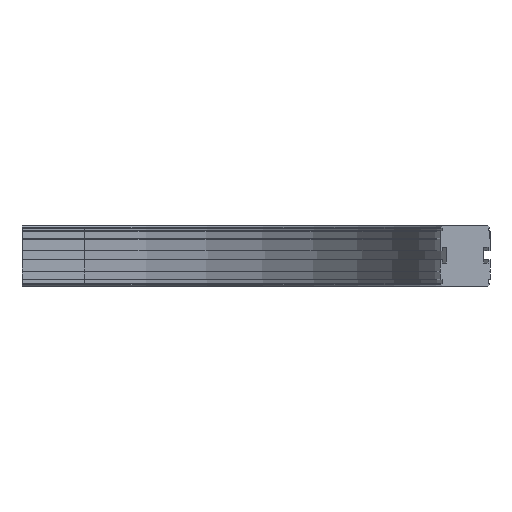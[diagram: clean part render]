
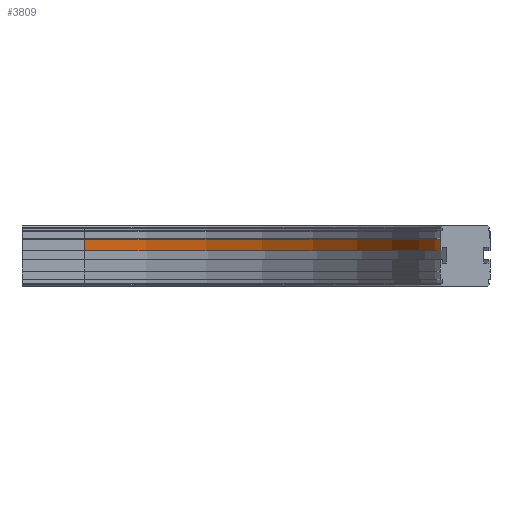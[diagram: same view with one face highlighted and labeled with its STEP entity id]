
A CAD part, front view. The second image highlights one B-rep face of the part: STEP entity #3809.
In plain terms, the highlighted cylindrical face has radius 457 mm (diameter 914 mm), a partial arc.
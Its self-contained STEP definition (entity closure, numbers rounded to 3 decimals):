
#2518=CARTESIAN_POINT('',(537.,-489.,-17.5));
#2519=VERTEX_POINT('',#2518);
#2526=CARTESIAN_POINT('',(537.,-489.,-32.5));
#2527=VERTEX_POINT('',#2526);
#2528=CARTESIAN_POINT('',(537.,-489.,-32.5));
#2529=DIRECTION('',(0.0,0.0,1.0));
#2530=VECTOR('',#2529,15.);
#2531=LINE('',#2528,#2530);
#2532=EDGE_CURVE('',#2527,#2519,#2531,.T.);
#3777=CARTESIAN_POINT('',(80.,-489.,-25.));
#3778=DIRECTION('',(0.0,0.0,-1.0));
#3779=DIRECTION('',(-1.0,0.0,0.0));
#3780=AXIS2_PLACEMENT_3D('',#3777,#3778,#3779);
#3781=CYLINDRICAL_SURFACE('',#3780,457.);
#3782=ORIENTED_EDGE('',*,*,#2532,.T.);
#3783=CARTESIAN_POINT('',(80.0,-32.0,-17.5));
#3784=VERTEX_POINT('',#3783);
#3785=CARTESIAN_POINT('',(80.,-489.,-17.5));
#3786=DIRECTION('',(0.0,0.0,-1.0));
#3787=DIRECTION('',(-1.0,0.0,0.0));
#3788=AXIS2_PLACEMENT_3D('',#3785,#3786,#3787);
#3789=CIRCLE('',#3788,457.);
#3790=EDGE_CURVE('',#3784,#2519,#3789,.T.);
#3791=ORIENTED_EDGE('',*,*,#3790,.F.);
#3792=CARTESIAN_POINT('',(80.0,-32.0,-32.5));
#3793=VERTEX_POINT('',#3792);
#3794=CARTESIAN_POINT('',(80.0,-32.0,-32.5));
#3795=DIRECTION('',(0.0,0.0,1.0));
#3796=VECTOR('',#3795,15.);
#3797=LINE('',#3794,#3796);
#3798=EDGE_CURVE('',#3793,#3784,#3797,.T.);
#3799=ORIENTED_EDGE('',*,*,#3798,.F.);
#3800=CARTESIAN_POINT('',(80.,-489.,-32.5));
#3801=DIRECTION('',(0.0,0.0,-1.0));
#3802=DIRECTION('',(-1.0,0.0,0.0));
#3803=AXIS2_PLACEMENT_3D('',#3800,#3801,#3802);
#3804=CIRCLE('',#3803,457.);
#3805=EDGE_CURVE('',#3793,#2527,#3804,.T.);
#3806=ORIENTED_EDGE('',*,*,#3805,.T.);
#3807=EDGE_LOOP('',(#3782,#3791,#3799,#3806));
#3808=FACE_OUTER_BOUND('',#3807,.T.);
#3809=ADVANCED_FACE('',(#3808),#3781,.F.);
